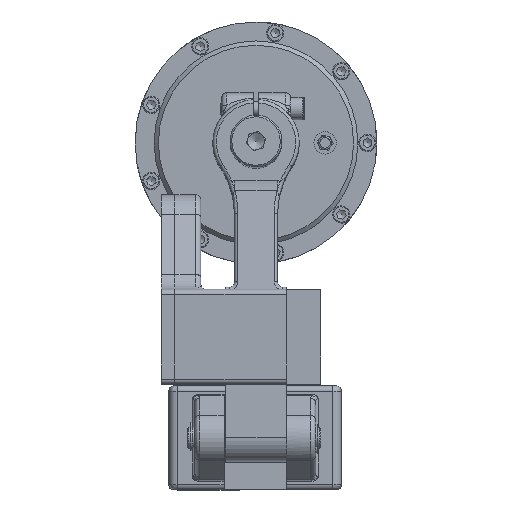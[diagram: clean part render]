
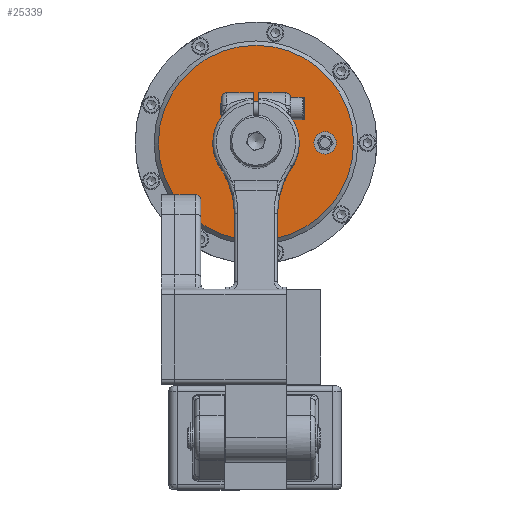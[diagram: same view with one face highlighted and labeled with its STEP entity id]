
A CAD part, top view. The second image highlights one B-rep face of the part: STEP entity #25339.
In plain terms, the highlighted planar face has unit normal (0, 0, 1).
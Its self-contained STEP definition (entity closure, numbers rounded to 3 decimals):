
#1830=FACE_BOUND('',#4593,.T.);
#1831=FACE_BOUND('',#4594,.T.);
#2224=PLANE('',#27517);
#3077=FACE_OUTER_BOUND('',#4592,.T.);
#4592=EDGE_LOOP('',(#19488));
#4593=EDGE_LOOP('',(#19489,#19490));
#4594=EDGE_LOOP('',(#19491,#19492));
#9021=CIRCLE('',#27518,56.5);
#9022=CIRCLE('',#27519,6.5);
#9023=CIRCLE('',#27520,6.5);
#9024=CIRCLE('',#27521,15.);
#9025=CIRCLE('',#27522,15.);
#10955=VERTEX_POINT('',#40478);
#10956=VERTEX_POINT('',#40480);
#10957=VERTEX_POINT('',#40481);
#10958=VERTEX_POINT('',#40484);
#10959=VERTEX_POINT('',#40485);
#14004=EDGE_CURVE('',#10955,#10955,#9021,.T.);
#14005=EDGE_CURVE('',#10956,#10957,#9022,.T.);
#14006=EDGE_CURVE('',#10957,#10956,#9023,.T.);
#14007=EDGE_CURVE('',#10958,#10959,#9024,.T.);
#14008=EDGE_CURVE('',#10959,#10958,#9025,.T.);
#19488=ORIENTED_EDGE('',*,*,#14004,.F.);
#19489=ORIENTED_EDGE('',*,*,#14005,.T.);
#19490=ORIENTED_EDGE('',*,*,#14006,.T.);
#19491=ORIENTED_EDGE('',*,*,#14007,.T.);
#19492=ORIENTED_EDGE('',*,*,#14008,.T.);
#25339=ADVANCED_FACE('',(#3077,#1830,#1831),#2224,.T.);
#27517=AXIS2_PLACEMENT_3D('',#40477,#32547,#32548);
#27518=AXIS2_PLACEMENT_3D('',#40479,#32549,#32550);
#27519=AXIS2_PLACEMENT_3D('',#40482,#32551,#32552);
#27520=AXIS2_PLACEMENT_3D('',#40483,#32553,#32554);
#27521=AXIS2_PLACEMENT_3D('',#40486,#32555,#32556);
#27522=AXIS2_PLACEMENT_3D('',#40487,#32557,#32558);
#32547=DIRECTION('center_axis',(0.,0.,
1.));
#32548=DIRECTION('ref_axis',(0.,-1.,0.));
#32549=DIRECTION('center_axis',(0.,0.,
-1.));
#32550=DIRECTION('ref_axis',(-1.,0.,0.));
#32551=DIRECTION('center_axis',(0.,0.,
-1.));
#32552=DIRECTION('ref_axis',(0.,-1.,0.));
#32553=DIRECTION('center_axis',(0.,0.,
-1.));
#32554=DIRECTION('ref_axis',(0.,-1.,0.));
#32555=DIRECTION('center_axis',(0.,0.,
-1.));
#32556=DIRECTION('ref_axis',(1.,0.,0.));
#32557=DIRECTION('center_axis',(0.,0.,
-1.));
#32558=DIRECTION('ref_axis',(1.,0.,0.));
#40477=CARTESIAN_POINT('Origin',(84.,140.,-46.25));
#40478=CARTESIAN_POINT('',(103.5,140.,-46.25));
#40479=CARTESIAN_POINT('Origin',(47.,140.,-46.25));
#40480=CARTESIAN_POINT('',(87.,133.5,-46.25));
#40481=CARTESIAN_POINT('',(87.,146.5,-46.25));
#40482=CARTESIAN_POINT('Origin',(87.,140.,-46.25));
#40483=CARTESIAN_POINT('Origin',(87.,140.,-46.25));
#40484=CARTESIAN_POINT('',(62.,140.,-46.25));
#40485=CARTESIAN_POINT('',(32.,140.,-46.25));
#40486=CARTESIAN_POINT('Origin',(47.,140.,-46.25));
#40487=CARTESIAN_POINT('Origin',(47.,140.,-46.25));
